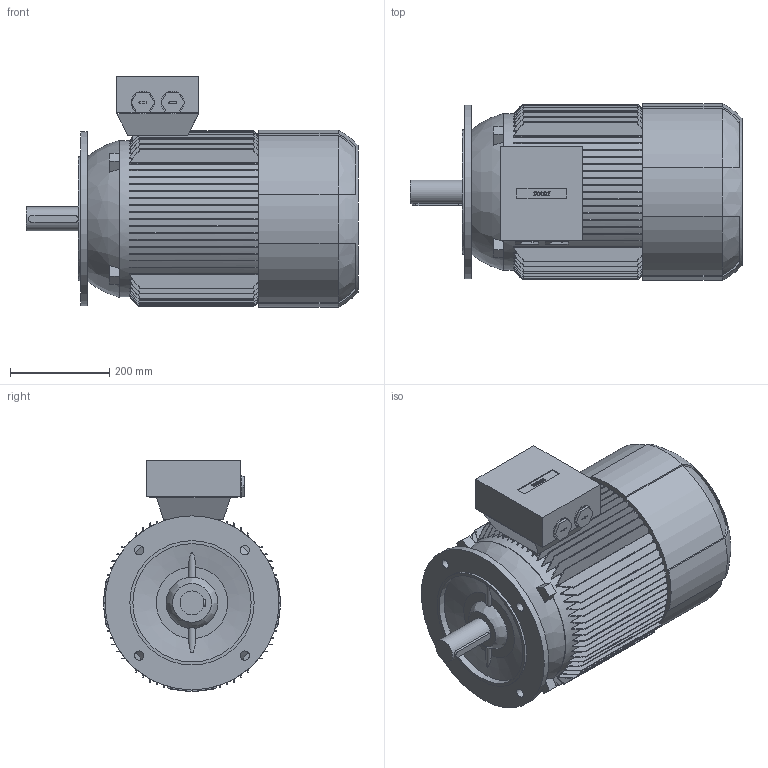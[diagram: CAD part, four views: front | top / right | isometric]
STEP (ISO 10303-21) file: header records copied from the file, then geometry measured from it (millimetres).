
FILE_DESCRIPTION (( 'STEP AP214' ), '1' );
FILE_NAME ('6RN180M02E22 IM3041.STEP', '2017-12-28T13:42:38', ( 'rbc_ict' ), ( '' ), 'SwSTEP 2.0', 'SolidWorks 2015', '' );
FILE_SCHEMA (( 'AUTOMOTIVE_DESIGN' ));
Length unit declared in the file: millimetre
Products named in the file (1): 6RN180M02E22 IM3041
Bounding box: 668 x 356 x 464 mm (x, y, z)
Volume: 49769240.2 mm3; surface area: 1765645.7 mm2
Topology: 1 solids, 1 shells, 748 faces, 2182 edges, 1450 vertices
Faces by surface type: plane 455, bspline 187, cylinder 101, cone 5
Full cylindrical faces by diameter (mm): 18.5 x4, 46 x2, 48 x1, 238 x1, 250 x1, 314 x1, 350 x1
Entity records: 29528 total; most frequent: CARTESIAN_POINT 10899, ORIENTED_EDGE 4320, DIRECTION 3342, EDGE_CURVE 2160, VERTEX_POINT 1443, LINE 1138, VECTOR 1138, AXIS2_PLACEMENT_3D 1102
